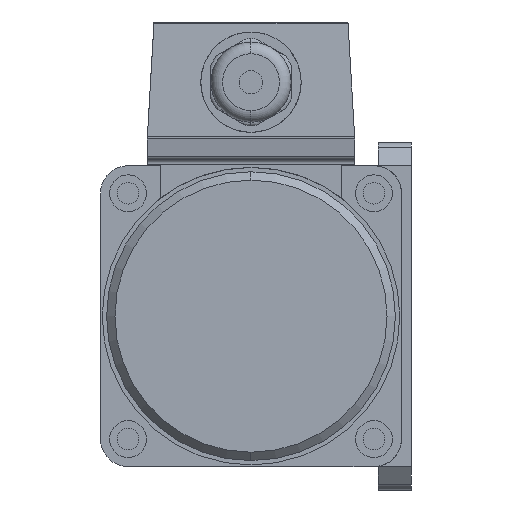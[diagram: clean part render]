
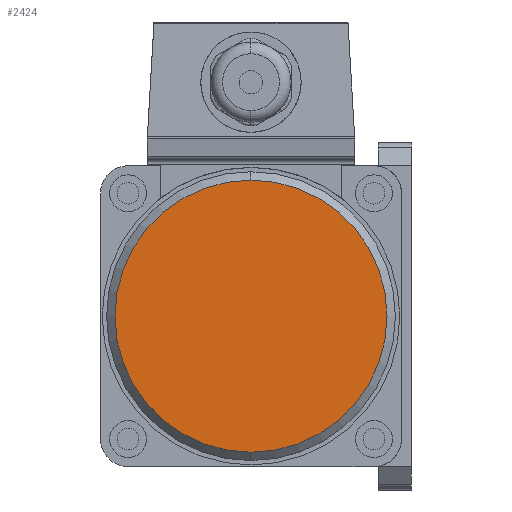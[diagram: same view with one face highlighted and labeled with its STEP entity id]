
A CAD part, left-side view. The second image highlights one B-rep face of the part: STEP entity #2424.
In plain terms, the highlighted planar face has unit normal (-1, 0, 0).
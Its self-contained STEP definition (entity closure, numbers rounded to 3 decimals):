
#2404=CARTESIAN_POINT('POINT655471',(-173.,48.,28.7));
#2405=VERTEX_POINT('VERTEX655471',#2404);
#2406=CARTESIAN_POINT('POINT655472',(-173.,48.,-52.7));
#2407=VERTEX_POINT('VERTEX655472',#2406);
#2408=CARTESIAN_POINT('POS1080879',(-173.,48.,-12.));
#2409=DIRECTION('DIR1594287',(1.,0.,0.));
#2410=DIRECTION('DIR1594288',(0.,0.,1.));
#2411=AXIS2_PLACEMENT_3D('AXIS513409',#2408,#2409,#2410);
#2412=CIRCLE('ELLIPSE222704',#2411,40.7);
#2413=EDGE_CURVE('EDGE1010683',#2405,#2407,#2412,.T.);
#2414=ORIENTED_EDGE('COEDGE2021911',*,*,#2413,.F.);
#2415=EDGE_CURVE('EDGE1010684',#2407,#2405,#2412,.T.);
#2416=ORIENTED_EDGE('COEDGE2021912',*,*,#2415,.F.);
#2417=EDGE_LOOP('NONE',(#2414,#2416));
#2418=FACE_BOUND('LOOP1',#2417,.T.);
#2419=CARTESIAN_POINT('POS1080880',(-173.,48.,
   8.35));
#2420=DIRECTION('DIR1594289',(-1.,0.,0.));
#2421=DIRECTION('DIR1594290',(0.,1.,0.));
#2422=AXIS2_PLACEMENT_3D('AXIS513410',#2419,#2420,#2421);
#2423=PLANE('PLANE191547',#2422);
#2424=ADVANCED_FACE('FACE402704',(#2418),#2423,.T.);
